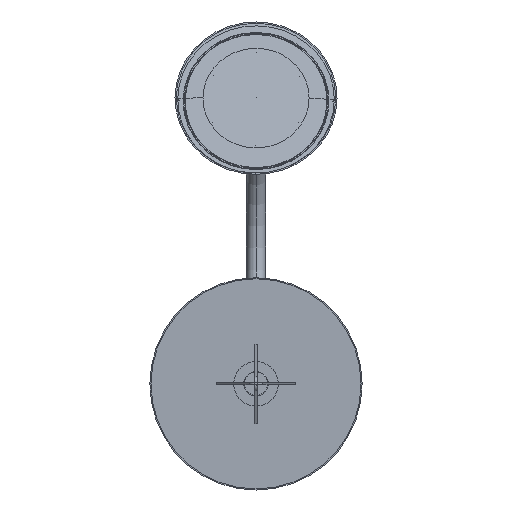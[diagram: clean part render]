
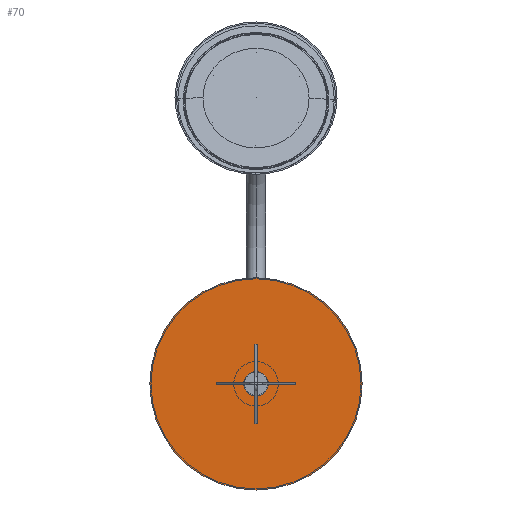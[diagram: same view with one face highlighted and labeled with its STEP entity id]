
A CAD part, front view. The second image highlights one B-rep face of the part: STEP entity #70.
In plain terms, the highlighted planar face has unit normal (0, -1, 0).
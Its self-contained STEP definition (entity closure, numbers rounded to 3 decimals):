
#1=CARTESIAN_POINT('',(0.,0.,0.));
#2=DIRECTION('',(0.,1.,0.));
#3=DIRECTION('',(0.,0.,-1.));
#4=AXIS2_PLACEMENT_3D('',#1,#2,#3);
#6=CARTESIAN_POINT('',(0.,0.,0.));
#7=DIRECTION('',(0.,1.,0.));
#8=DIRECTION('',(0.,0.,1.));
#9=AXIS2_PLACEMENT_3D('',#6,#7,#8);
#47=CARTESIAN_POINT('',(0.,0.,-100.));
#48=CARTESIAN_POINT('',(0.,0.,100.));
#49=VERTEX_POINT('',#47);
#50=VERTEX_POINT('',#48);
#59=CARTESIAN_POINT('',(0.,0.,0.));
#60=DIRECTION('',(0.,1.,0.));
#61=DIRECTION('',(0.,0.,-1.));
#62=AXIS2_PLACEMENT_3D('',#59,#60,#61);
#63=PLANE('',#62);
#65=ORIENTED_EDGE('',*,*,#64,.T.);
#67=ORIENTED_EDGE('',*,*,#66,.T.);
#68=EDGE_LOOP('',(#65,#67));
#69=FACE_OUTER_BOUND('',#68,.F.);
#70=ADVANCED_FACE('',(#69),#63,.F.);
#5=CIRCLE('',#4,100.);
#10=CIRCLE('',#9,100.);
#64=EDGE_CURVE('',#49,#50,#5,.T.);
#66=EDGE_CURVE('',#50,#49,#10,.T.);
